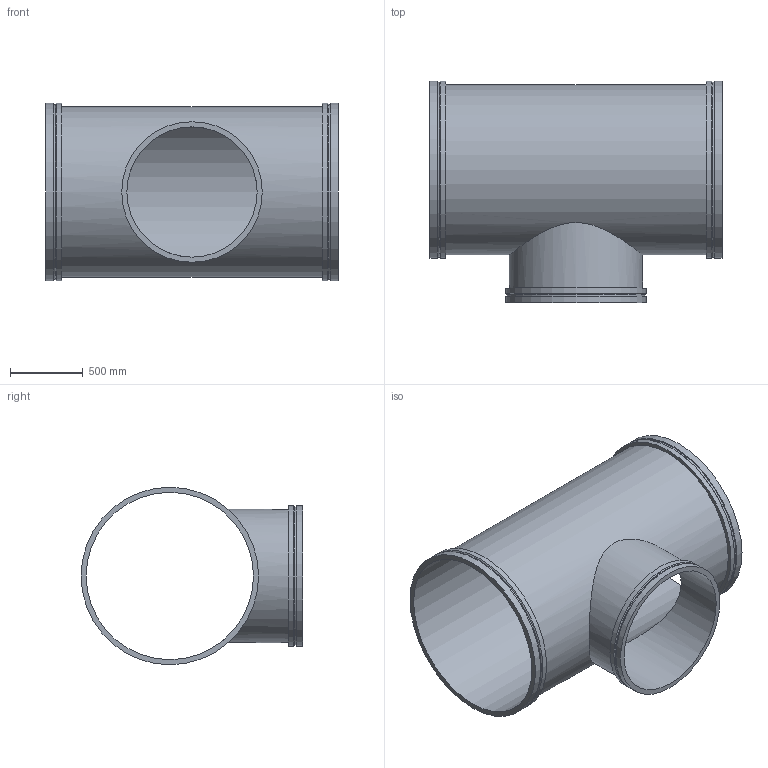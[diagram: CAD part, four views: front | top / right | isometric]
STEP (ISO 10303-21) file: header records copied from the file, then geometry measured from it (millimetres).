
FILE_DESCRIPTION(/* description */ ('VIC REDUCING TEE No W025 VR','CAx-IF Rec.Pracs.---Representation and Presentation of Product Manufacturing Information (PMI)---4.0---2014-10-13'),/* implementation_level */ '2;1');
FILE_NAME(/* name */ 'C:\Users\kkamble\AppData\Roaming\Autodesk\ApplicationPlugins\Back Up\Victaulic_Vic-Ring_Tee Reducing_No W25 VR (AGR)\Victaulic_Vic-Ring_Tee Reducing_No W25 VR (AGR)_46.0x36.0 (1150x900).stp',/* time_stamp */ '2020-09-10T11:56:48+05:00',/* author */ ('mchristi'),/* organization */ ('Victaulic'),/* preprocessor_version */ 'ST-DEVELOPER v17.2',/* originating_system */ 'Autodesk Inventor 2019',/* authorisation */ '');
FILE_SCHEMA (('AP242_MANAGED_MODEL_BASED_3D_ENGINEERING_MIM_LF { 1 0 10303 442 1 1 4 }'));
Length unit declared in the file: inch
Products named in the file (1): W25 VR-46.0x36.0
Bounding box: 2006.6 x 1524 x 1219.2 mm (x, y, z)
Volume: 101527886.9 mm3; surface area: 16475367.1 mm2
Topology: 1 solids, 1 shells, 25 faces, 68 edges, 52 vertices
Faces by surface type: cylinder 13, plane 9, cone 3
Full cylindrical faces by diameter (mm): 895.35 x1, 914.4 x1, 950.722 x1, 965.2 x2, 1149.35 x1, 1168.4 x1, 1203.325 x2, 1219.2 x4
Entity records: 1267 total; most frequent: CARTESIAN_POINT 423, DIRECTION 190, ORIENTED_EDGE 136, AXIS2_PLACEMENT_3D 87, EDGE_CURVE 68, VERTEX_POINT 52, CIRCLE 48, EDGE_LOOP 36
